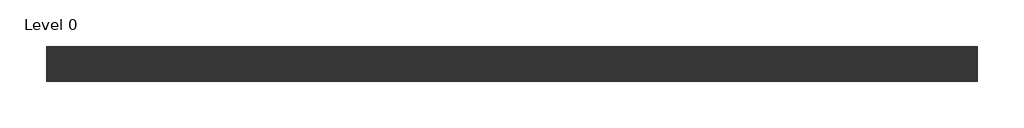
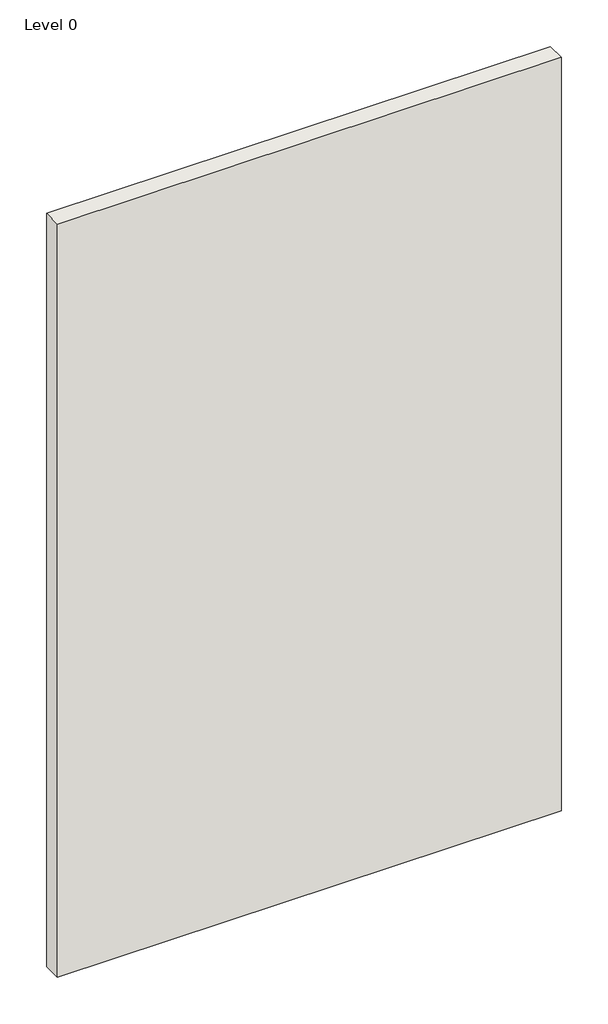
# One storey: 1 wall.
"""IFC4 building model written with IfcOpenShell, lengths in millimetres."""

from ifc_helpers import new_model, si_unit, origin, origin_with_axes, place, context, project, spatial, polyline, outline, extrude, element, save

model = new_model("IFC4")

# Units and contexts
model_context = context("Model", 3, world=origin())
ifc_project = project(units=[si_unit("LENGTHUNIT", "METRE", prefix="MILLI")], contexts=[model_context])

# Site, building, storey
site = spatial("IfcSite", under=ifc_project)
building = spatial("IfcBuilding", under=site)
storey = spatial("IfcBuildingStorey", under=building, Name="Level 0", Elevation=0.0)

# Wall
placement = place(None, origin())
element("IfcWall", 1, ObjectType="G106004 - GypWall Classic", at=placement, inside=storey, context=model_context, shape_type="SweptSolid", body=[
    extrude(outline(polyline([(1155.997948, 497.7669953), (-1944.002052, 497.7669953), (-1944.002052, 612.7669953), (1155.997948, 612.7669953), (1155.997948, 497.7669953)])), origin_with_axes(), (0.0, 0.0, 1.0), 4900.0),
])

save(model, "model.ifc")
